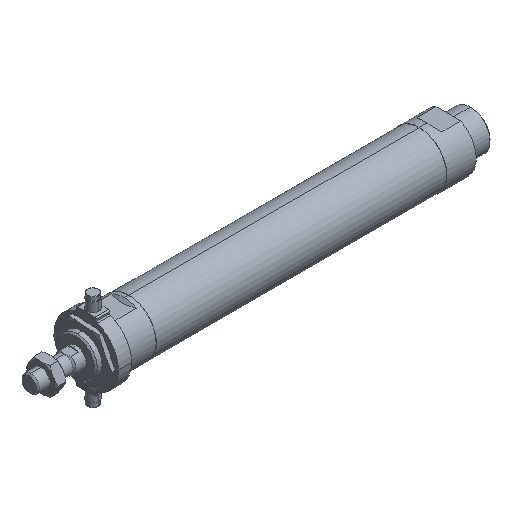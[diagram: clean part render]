
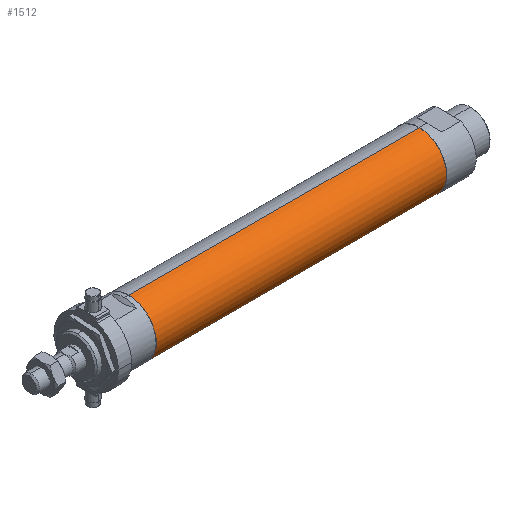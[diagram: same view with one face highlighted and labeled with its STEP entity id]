
A CAD part, isometric view. The second image highlights one B-rep face of the part: STEP entity #1512.
In plain terms, the highlighted cylindrical face has radius 18.8 mm (diameter 37.6 mm), a partial arc.
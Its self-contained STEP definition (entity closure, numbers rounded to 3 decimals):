
#109 = AXIS2_PLACEMENT_3D ( 'NONE', #4598, #3553, #2454 ) ;
#111 = DIRECTION ( 'NONE',  ( 0., 0., 1. ) ) ;
#224 = VERTEX_POINT ( 'NONE', #3600 ) ;
#324 = CIRCLE ( 'NONE', #109, 18.8 ) ;
#344 = VERTEX_POINT ( 'NONE', #2139 ) ;
#352 = ORIENTED_EDGE ( 'NONE', *, *, #2807, .T. ) ;
#628 = CARTESIAN_POINT ( 'NONE',  ( 68., 0., -18.8 ) ) ;
#884 = DIRECTION ( 'NONE',  ( -1., 0., 0. ) ) ;
#937 = AXIS2_PLACEMENT_3D ( 'NONE', #2423, #2493, #111 ) ;
#1048 = VERTEX_POINT ( 'NONE', #628 ) ;
#1294 = DIRECTION ( 'NONE',  ( -1., 0., 0. ) ) ;
#1296 = LINE ( 'NONE', #4479, #3068 ) ;
#1498 = EDGE_CURVE ( 'NONE', #224, #2900, #1877, .T. ) ;
#1505 = CARTESIAN_POINT ( 'NONE',  ( -1.784, 0., -18.8 ) ) ;
#1512 = ADVANCED_FACE ( 'NONE', ( #3239 ), #1585, .T. ) ;
#1585 = CYLINDRICAL_SURFACE ( 'NONE', #2653, 18.8 ) ;
#1738 = DIRECTION ( 'NONE',  ( 0., 0., 1. ) ) ;
#1877 = CIRCLE ( 'NONE', #937, 18.8 ) ;
#1986 = ORIENTED_EDGE ( 'NONE', *, *, #2635, .F. ) ;
#2139 = CARTESIAN_POINT ( 'NONE',  ( 68., 0., 18.8 ) ) ;
#2146 = EDGE_LOOP ( 'NONE', ( #1986, #2420, #352, #2997 ) ) ;
#2420 = ORIENTED_EDGE ( 'NONE', *, *, #1498, .T. ) ;
#2423 = CARTESIAN_POINT ( 'NONE',  ( 267., 0., 0. ) ) ;
#2454 = DIRECTION ( 'NONE',  ( 0., 0., 1. ) ) ;
#2493 = DIRECTION ( 'NONE',  ( -1., 0., 0. ) ) ;
#2635 = EDGE_CURVE ( 'NONE', #224, #1048, #2938, .T. ) ;
#2653 = AXIS2_PLACEMENT_3D ( 'NONE', #3379, #3741, #1738 ) ;
#2807 = EDGE_CURVE ( 'NONE', #2900, #344, #1296, .T. ) ;
#2900 = VERTEX_POINT ( 'NONE', #3754 ) ;
#2938 = LINE ( 'NONE', #1505, #4247 ) ;
#2997 = ORIENTED_EDGE ( 'NONE', *, *, #4011, .F. ) ;
#3068 = VECTOR ( 'NONE', #1294, 1000. ) ;
#3239 = FACE_OUTER_BOUND ( 'NONE', #2146, .T. ) ;
#3379 = CARTESIAN_POINT ( 'NONE',  ( -1.784, 0., 0. ) ) ;
#3553 = DIRECTION ( 'NONE',  ( -1., 0., 0. ) ) ;
#3600 = CARTESIAN_POINT ( 'NONE',  ( 267., 0., -18.8 ) ) ;
#3741 = DIRECTION ( 'NONE',  ( -1., 0., 0. ) ) ;
#3754 = CARTESIAN_POINT ( 'NONE',  ( 267., 0., 18.8 ) ) ;
#4011 = EDGE_CURVE ( 'NONE', #1048, #344, #324, .T. ) ;
#4247 = VECTOR ( 'NONE', #884, 1000. ) ;
#4479 = CARTESIAN_POINT ( 'NONE',  ( -1.784, 0., 18.8 ) ) ;
#4598 = CARTESIAN_POINT ( 'NONE',  ( 68., 0., 0. ) ) ;
